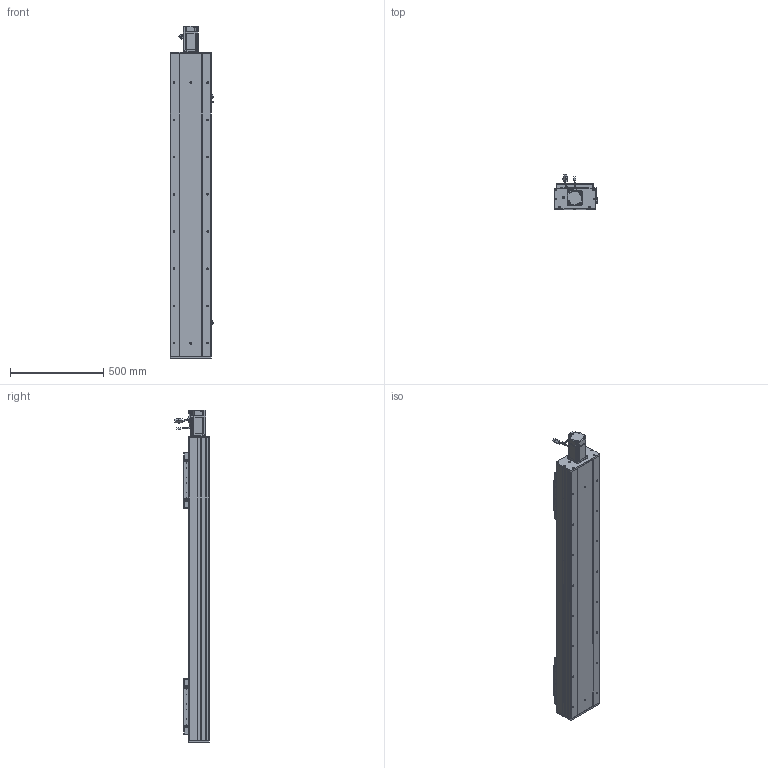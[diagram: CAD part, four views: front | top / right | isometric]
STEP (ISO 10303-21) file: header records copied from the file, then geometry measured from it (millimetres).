
FILE_DESCRIPTION (( 'STEP AP203' ), '1' );
FILE_NAME ('RY220F-L2525-300-MK.SLDASM_1200.step', '2022-07-04T01:03:56', ( '' ), ( '' ), 'SwSTEP 2.0', 'SolidWorks 2016', '' );
FILE_SCHEMA (( 'CONFIG_CONTROL_DESIGN' ));
Length unit declared in the file: millimetre
Products named in the file (15): 滅袉蝶18-24; RY220F臏賑釱25-32佪裝; RY220Fヶ裔啣; RY220F-奻裔啣-300_1200; RY220电机支撑座FK20（PCD90M6）; 怢湛750W_ECMA-CX0807ES; RY220F-672覜茼んえ; RY220F-L2525-300-MK.SLDASM_1200; RY220F-詩湍揤踡輸; 覜茼ん672; RY220F菁釱MK-300_1200; RY220F-祥凄詩湍-MK-300_1200; 滅袉蝶18-20; RY220F綴裔啣; RY220F-滅鳥奻裔
Assembly tree (23 placements, depth 2):
  RY220F-L2525-300-MK.SLDASM_1200
    RY220F菁釱MK-300_1200
    RY220电机支撑座FK20（PCD90M6）
    RY220F-奻裔啣-300_1200  x2
    怢湛750W_ECMA-CX0807ES
    RY220F臏賑釱25-32佪裝  x2
    RY220F-滅鳥奻裔  x2
    滅袉蝶18-20
    滅袉蝶18-24  x3
    RY220Fヶ裔啣
    RY220F綴裔啣
    RY220F-祥凄詩湍-MK-300_1200
    RY220F-詩湍揤踡輸  x2
    覜茼ん672  x3
    RY220F-672覜茼んえ  x2
Bounding box: 233.7 x 187.27 x 1784.3 mm (x, y, z)
Volume: 16166936.2 mm3; surface area: 4051343.8 mm2
Topology: 24 solids, 24 shells, 2786 faces, 7626 edges, 4714 vertices
Faces by surface type: cylinder 1262, plane 1030, cone 431, bspline 37, sphere 16, torus 10
Entity records: 69602 total; most frequent: CARTESIAN_POINT 18590, ORIENTED_EDGE 10322, DIRECTION 10078, EDGE_CURVE 5161, AXIS2_PLACEMENT_3D 3595, VERTEX_POINT 3354, LINE 2888, VECTOR 2888
